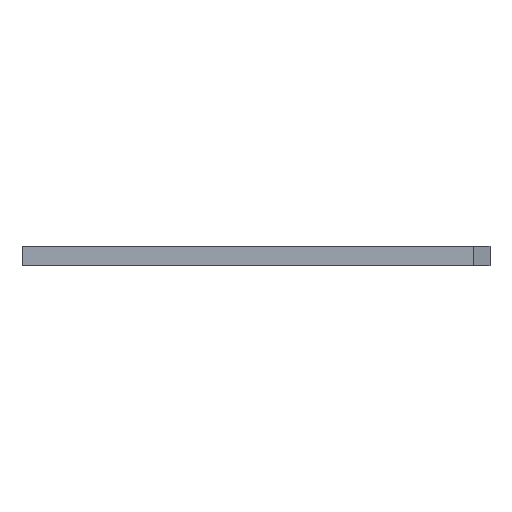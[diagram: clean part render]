
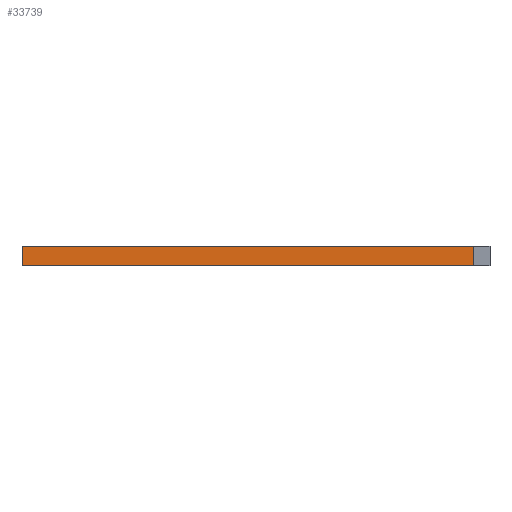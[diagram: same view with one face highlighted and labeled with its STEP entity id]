
A CAD part, front view. The second image highlights one B-rep face of the part: STEP entity #33739.
In plain terms, the highlighted planar face has unit normal (0, -1, 0).
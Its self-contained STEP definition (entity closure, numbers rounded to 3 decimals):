
#221=FACE_OUTER_BOUND('',#2341,.T.);
#2341=EDGE_LOOP('',(#22058,#22059,#22060,#22061));
#4762=LINE('',#47344,#9610);
#4780=LINE('',#47380,#9628);
#4781=LINE('',#47382,#9629);
#4782=LINE('',#47383,#9630);
#9610=VECTOR('',#38138,10.);
#9628=VECTOR('',#38162,10.);
#9629=VECTOR('',#38165,10.);
#9630=VECTOR('',#38166,10.);
#14456=VERTEX_POINT('',#47340);
#14458=VERTEX_POINT('',#47343);
#14472=VERTEX_POINT('',#47376);
#14473=VERTEX_POINT('',#47378);
#17188=EDGE_CURVE('',#14456,#14458,#4762,.T.);
#17206=EDGE_CURVE('',#14472,#14473,#4780,.T.);
#17207=EDGE_CURVE('',#14472,#14456,#4781,.T.);
#17208=EDGE_CURVE('',#14458,#14473,#4782,.T.);
#22058=ORIENTED_EDGE('',*,*,#17207,.F.);
#22059=ORIENTED_EDGE('',*,*,#17206,.T.);
#22060=ORIENTED_EDGE('',*,*,#17208,.F.);
#22061=ORIENTED_EDGE('',*,*,#17188,.F.);
#31619=PLANE('',#35873);
#33739=ADVANCED_FACE('',(#221),#31619,.T.);
#35873=AXIS2_PLACEMENT_3D('',#47381,#38163,#38164);
#38138=DIRECTION('',(0.,0.,-1.));
#38162=DIRECTION('',(0.,0.,-1.));
#38163=DIRECTION('center_axis',(0.,-1.,0.));
#38164=DIRECTION('ref_axis',(-1.,0.,0.));
#38165=DIRECTION('',(1.,0.,0.));
#38166=DIRECTION('',(-1.,0.,0.));
#47340=CARTESIAN_POINT('',(-107.387,-384.,8.));
#47343=CARTESIAN_POINT('',(-107.387,-384.,0.));
#47344=CARTESIAN_POINT('',(-107.387,-384.,8.));
#47376=CARTESIAN_POINT('',(-294.931,-384.,8.));
#47378=CARTESIAN_POINT('',(-294.931,-384.,0.));
#47380=CARTESIAN_POINT('',(-294.931,-384.,8.));
#47381=CARTESIAN_POINT('Origin',(-107.387,-384.,8.));
#47382=CARTESIAN_POINT('',(-294.931,-384.,8.));
#47383=CARTESIAN_POINT('',(-294.931,-384.,0.));
